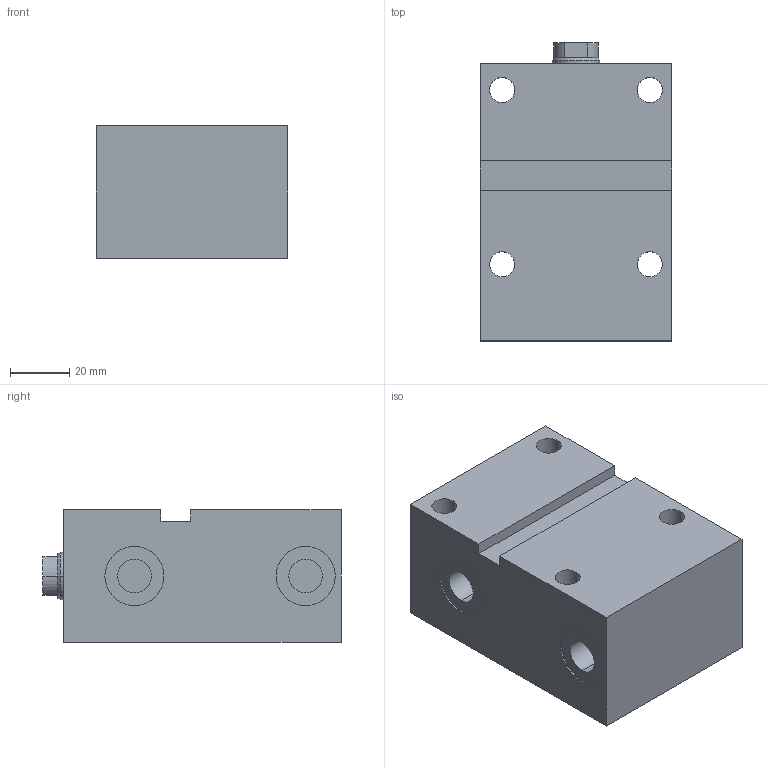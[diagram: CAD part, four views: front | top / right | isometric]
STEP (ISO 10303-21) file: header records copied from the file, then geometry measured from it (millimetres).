
FILE_DESCRIPTION (( 'STEP AP203' ), '1' );
FILE_NAME ('GERMA_Blockzylinder_601-025-050.STEP', '2015-06-20T17:53:09', ( '' ), ( '' ), 'SwSTEP 2.0', 'SolidWorks 2013', '' );
FILE_SCHEMA (( 'CONFIG_CONTROL_DESIGN' ));
Length unit declared in the file: millimetre
Products named in the file (3): GERMA_Blockzylinder_601-025-050; GH-600-025_GH-601-025-050; Kolben 60x-025_Kolben DU.25-Hub50-IG
Assembly tree (2 placements, depth 2):
  GERMA_Blockzylinder_601-025-050
    GH-600-025_GH-601-025-050
    Kolben 60x-025_Kolben DU.25-Hub50-IG
Bounding box: 65 x 101 x 45 mm (x, y, z)
Volume: 244300.1 mm3; surface area: 45525.2 mm2
Topology: 2 solids, 2 shells, 77 faces, 172 edges, 106 vertices
Faces by surface type: cylinder 37, plane 26, cone 14
Entity records: 2434 total; most frequent: DIRECTION 415, CARTESIAN_POINT 354, ORIENTED_EDGE 332, AXIS2_PLACEMENT_3D 167, EDGE_CURVE 166, VERTEX_POINT 106, EDGE_LOOP 98, CIRCLE 85
